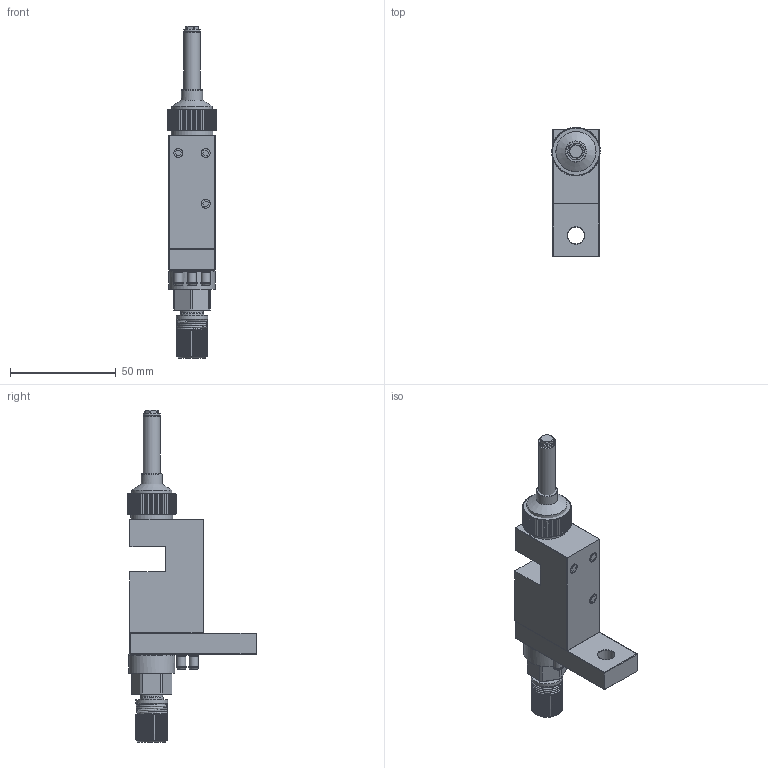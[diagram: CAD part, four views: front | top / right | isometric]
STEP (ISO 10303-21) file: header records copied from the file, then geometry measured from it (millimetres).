
FILE_DESCRIPTION (( 'STEP AP214' ), '1' );
FILE_NAME ('DAS-50N-30.STEP', '2024-10-11T10:08:09', ( '' ), ( '' ), 'SwSTEP 2.0', 'SolidWorks 2024', '' );
FILE_SCHEMA (( 'AUTOMOTIVE_DESIGN' ));
Length unit declared in the file: millimetre
Products named in the file (1): DAS-50N-30
Bounding box: 23 x 61.11 x 157.1 mm (x, y, z)
Volume: 76825.4 mm3; surface area: 25181.3 mm2
Topology: 18 solids, 18 shells, 745 faces, 1987 edges, 1307 vertices
Faces by surface type: cylinder 312, cone 173, plane 160, torus 63, bspline 37
Full cylindrical faces by diameter (mm): 3.3 x3, 4 x1, 4.3 x3, 4.8 x6, 5 x7, 5.8 x3, 7.85 x6, 8 x3, 8.8 x1, 10 x2, 10.5 x1, 11.1 x1, 13 x1, 15 x1, 18.9 x1, 19 x2, 19.8 x1, 20 x1, 20.8 x1, 21.8 x1
Entity records: 27772 total; most frequent: CARTESIAN_POINT 10139, ORIENTED_EDGE 3680, DIRECTION 3552, EDGE_CURVE 1840, AXIS2_PLACEMENT_3D 1499, VERTEX_POINT 1258, EDGE_LOOP 880, FACE_OUTER_BOUND 795
